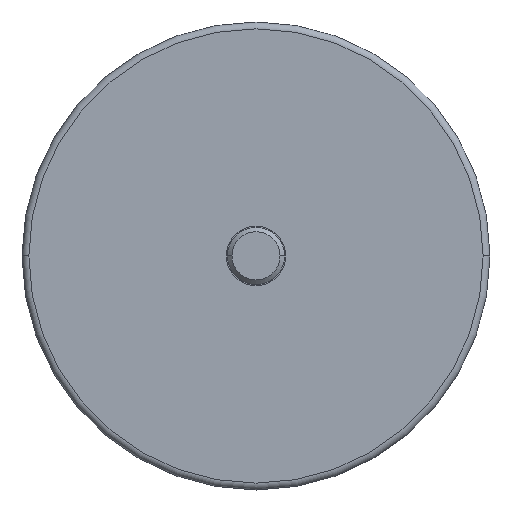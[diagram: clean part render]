
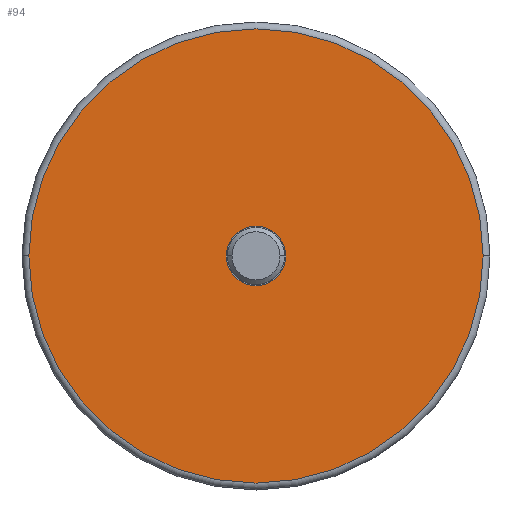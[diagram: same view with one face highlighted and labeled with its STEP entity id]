
A CAD part, top view. The second image highlights one B-rep face of the part: STEP entity #94.
In plain terms, the highlighted planar face has unit normal (0, 0, 1).
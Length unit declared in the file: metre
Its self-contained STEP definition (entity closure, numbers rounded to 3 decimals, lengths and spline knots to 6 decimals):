
#94=ADVANCED_FACE('30:66',(#202,#203),#204,.T.);
#202=FACE_BOUND('',#374,.T.);
#203=FACE_OUTER_BOUND('',#375,.T.);
#204=PLANE('',#376);
#374=EDGE_LOOP('',(#639,#640));
#375=EDGE_LOOP('',(#641,#642));
#376=AXIS2_PLACEMENT_3D('',#643,#644,#645);
#639=ORIENTED_EDGE('',*,*,#1140,.F.);
#640=ORIENTED_EDGE('',*,*,#1156,.F.);
#641=ORIENTED_EDGE('',*,*,#1134,.F.);
#642=ORIENTED_EDGE('',*,*,#1158,.F.);
#643=CARTESIAN_POINT('',(-0.0508,0.,0.110826));
#644=DIRECTION('',(0.0,0.0,1.0));
#645=DIRECTION('',(1.0,0.0,0.0));
#1134=EDGE_CURVE('34:435',#1328,#1331,#1332,.T.);
#1140=EDGE_CURVE('30:87',#1341,#1337,#1343,.F.);
#1156=EDGE_CURVE('30:87',#1337,#1341,#1367,.F.);
#1158=EDGE_CURVE('34:435',#1331,#1328,#1369,.T.);
#1328=VERTEX_POINT('',#1632);
#1331=VERTEX_POINT('',#1635);
#1332=CIRCLE('',#1636,0.050476);
#1337=VERTEX_POINT('',#1641);
#1341=VERTEX_POINT('',#1646);
#1343=CIRCLE('',#1649,0.006604);
#1367=CIRCLE('',#1679,0.006604);
#1369=CIRCLE('',#1681,0.050476);
#1632=CARTESIAN_POINT('',(-0.050476,0.,0.110826));
#1635=CARTESIAN_POINT('',(0.050476,0.,0.110826));
#1636=AXIS2_PLACEMENT_3D('',#2029,#2030,#2031);
#1641=CARTESIAN_POINT('',(-0.006604,0.,0.110826));
#1646=CARTESIAN_POINT('',(0.006604,0.,0.110826));
#1649=AXIS2_PLACEMENT_3D('',#2043,#2044,#2045);
#1679=AXIS2_PLACEMENT_3D('',#2079,#2080,#2081);
#1681=AXIS2_PLACEMENT_3D('',#2085,#2086,#2087);
#2029=CARTESIAN_POINT('',(0.0,0.0,0.110826));
#2030=DIRECTION('',(0.0,0.0,-1.0));
#2031=DIRECTION('',(1.0,0.0,0.0));
#2043=CARTESIAN_POINT('',(0.0,0.0,0.110826));
#2044=DIRECTION('',(-0.0,0.0,-1.0));
#2045=DIRECTION('',(-1.0,0.0,0.0));
#2079=CARTESIAN_POINT('',(0.0,0.0,0.110826));
#2080=DIRECTION('',(-0.0,0.0,-1.0));
#2081=DIRECTION('',(-1.0,0.0,0.0));
#2085=CARTESIAN_POINT('',(0.0,0.0,0.110826));
#2086=DIRECTION('',(0.0,0.0,-1.0));
#2087=DIRECTION('',(1.0,0.0,0.0));
